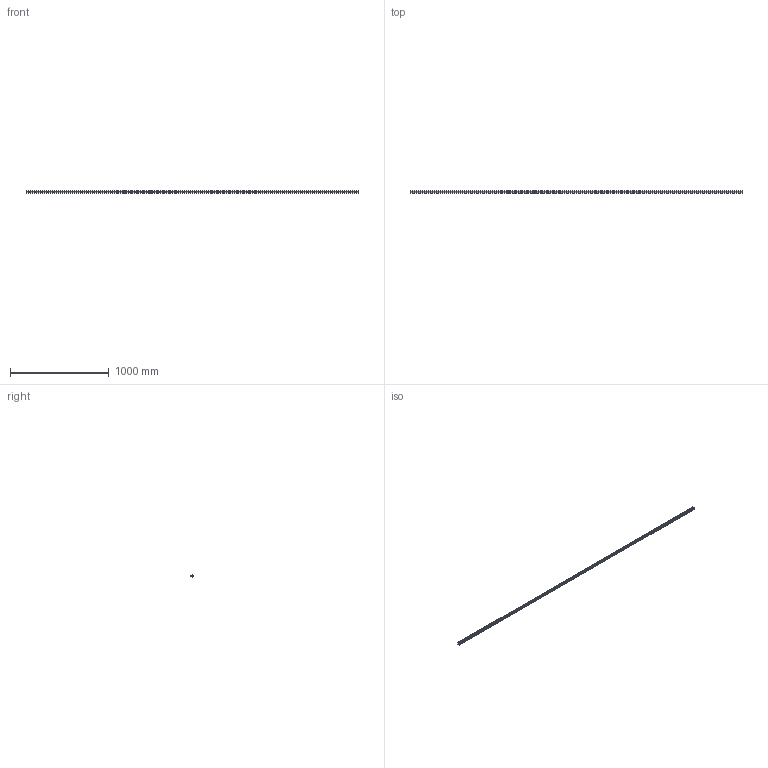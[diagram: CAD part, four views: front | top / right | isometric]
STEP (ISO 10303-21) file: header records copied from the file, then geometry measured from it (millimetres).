
FILE_DESCRIPTION (( 'STEP AP203' ), '1' );
FILE_NAME ('L1018.25R-3360.step', '2023-08-06T10:47:20', ( '' ), ( '' ), 'SwSTEP 2.0', 'SolidWorks 2019', '' );
FILE_SCHEMA (( 'CONFIG_CONTROL_DESIGN' ));
Length unit declared in the file: millimetre
Products named in the file (1): L1018.25R-3360
Bounding box: 3360 x 21.8 x 25 mm (x, y, z)
Volume: 1397384 mm3; surface area: 334493.2 mm2
Topology: 1 solids, 1 shells, 533 faces, 1201 edges, 670 vertices
Faces by surface type: cylinder 227, cone 224, plane 82
Entity records: 14102 total; most frequent: DIRECTION 2723, CARTESIAN_POINT 2293, ORIENTED_EDGE 2178, AXIS2_PLACEMENT_3D 1100, EDGE_CURVE 1089, VERTEX_POINT 670, EDGE_LOOP 645, CIRCLE 566
